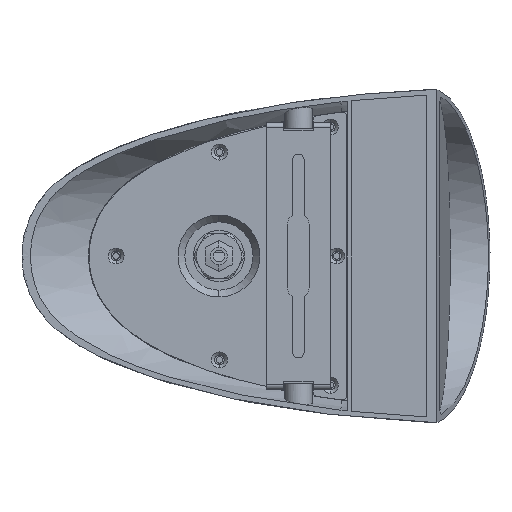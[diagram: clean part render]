
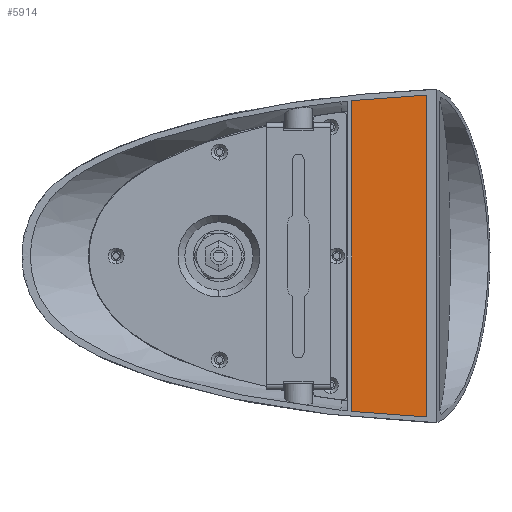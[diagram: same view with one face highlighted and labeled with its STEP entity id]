
A CAD part, front view. The second image highlights one B-rep face of the part: STEP entity #5914.
In plain terms, the highlighted planar face has unit normal (0, -1, 0).
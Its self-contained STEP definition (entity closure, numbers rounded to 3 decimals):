
#1649=DIRECTION('',(0.,0.,1.));
#1650=VECTOR('',#1649,150.955);
#1651=CARTESIAN_POINT('',(-30.75,45.381,-75.477));
#1652=LINE('',#1651,#1650);
#1657=CARTESIAN_POINT('',(-66.,45.381,
-72.863));
#1658=CARTESIAN_POINT('',(-62.092,45.381,
-73.257));
#1659=CARTESIAN_POINT('',(-54.269,45.381,
-73.976));
#1660=CARTESIAN_POINT('',(-42.515,45.381,
-74.808));
#1661=CARTESIAN_POINT('',(-34.674,45.381,
-75.296));
#1662=CARTESIAN_POINT('',(-30.75,45.381,-75.477));
#1668=DIRECTION('',(0.,0.,-1.));
#1669=VECTOR('',#1668,145.727);
#1670=CARTESIAN_POINT('',(-66.,45.381,72.864));
#1671=LINE('',#1670,#1669);
#1676=CARTESIAN_POINT('',(-30.75,45.381,75.477));
#1677=CARTESIAN_POINT('',(-34.674,45.381,75.296));
#1678=CARTESIAN_POINT('',(-42.515,45.381,74.808));
#1679=CARTESIAN_POINT('',(-54.269,45.381,73.975));
#1680=CARTESIAN_POINT('',(-62.092,45.381,73.258));
#1681=CARTESIAN_POINT('',(-66.,45.381,72.864));
#3726=VERTEX_POINT('',#1676);
#3727=VERTEX_POINT('',#1681);
#3728=CARTESIAN_POINT('',(-66.,45.381,
-72.863));
#3729=VERTEX_POINT('',#3728);
#3730=VERTEX_POINT('',#1662);
#5903=CARTESIAN_POINT('',(-23.545,45.381,100.));
#5904=DIRECTION('',(0.,-1.,0.));
#5905=DIRECTION('',(-1.,0.,0.));
#5906=AXIS2_PLACEMENT_3D('',#5903,#5904,#5905);
#5907=PLANE('',#5906);
#5908=ORIENTED_EDGE('',*,*,#5897,.F.);
#5909=ORIENTED_EDGE('',*,*,#5841,.F.);
#5910=ORIENTED_EDGE('',*,*,#5863,.F.);
#5911=ORIENTED_EDGE('',*,*,#5877,.F.);
#5912=EDGE_LOOP('',(#5908,#5909,#5910,#5911));
#5913=FACE_OUTER_BOUND('',#5912,.F.);
#5914=ADVANCED_FACE('',(#5913),#5907,.T.);
#1663=B_SPLINE_CURVE_WITH_KNOTS('',3,(#1657,#1658,#1659,#1660,#1661,#1662),
.UNSPECIFIED.,.F.,.F.,(4,1,1,4),(0.,0.333,0.667,1.),
.UNSPECIFIED.);
#1682=B_SPLINE_CURVE_WITH_KNOTS('',3,(#1676,#1677,#1678,#1679,#1680,#1681),
.UNSPECIFIED.,.F.,.F.,(4,1,1,4),(0.,0.333,0.667,1.),
.UNSPECIFIED.);
#5841=EDGE_CURVE('',#3730,#3726,#1652,.T.);
#5863=EDGE_CURVE('',#3729,#3730,#1663,.T.);
#5877=EDGE_CURVE('',#3727,#3729,#1671,.T.);
#5897=EDGE_CURVE('',#3726,#3727,#1682,.T.);
